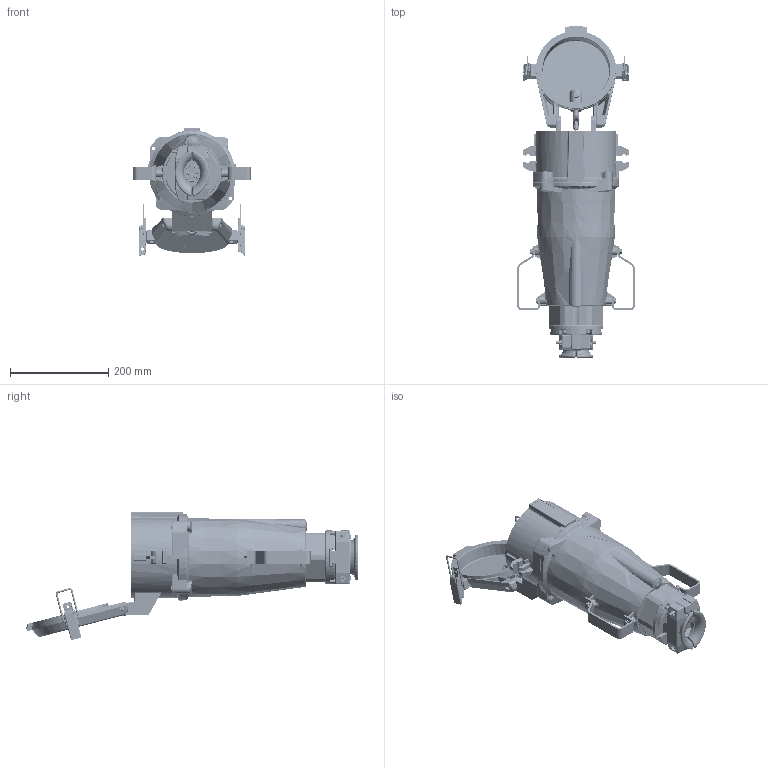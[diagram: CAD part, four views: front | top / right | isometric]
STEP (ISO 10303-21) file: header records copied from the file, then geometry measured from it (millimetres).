
FILE_DESCRIPTION (( 'STEP AP214' ), '1' );
FILE_NAME ('FC-S4-250 B-Line.STEP', '2019-04-25T06:24:08', ( '' ), ( '' ), 'SwSTEP 2.0', 'SolidWorks 2017', '' );
FILE_SCHEMA (( 'AUTOMOTIVE_DESIGN' ));
Length unit declared in the file: millimetre
Products named in the file (209): D_04966; Slotted Cheese Head Screw_DIN-R&S_ISO 1207 - M4 x 8 --- 8N; TL 600 Fuss; D_13704; Socket Set Screw Flat Point_DIN-R&S; TL 600 Rund; Sicherungsscheibe Schnorr; Socket Head Thin Cap Screw_DIN-R&S m.Tuflok; Hex Screw GradeC_DIN-R&S_ISO 4018 - M6 x 12-WN; TL 600 Spannverschluss; D_04741; D_13702; D_30943; D_30236; D_11205; D_13700; D_30694; D_31105; Sicherungsscheibe Rip-Lock; D_10399; Socket Head Cap Screw_DIN-R&S; D_04743; D_10400; D_14885; D_13699; 04973; D_13706; B_13559; D_04970; D_10356; D_30695; Sicherungsscheibe Schnorr_M5; D_11708_NT; Slotted Cheese Head Screw_DIN-R&S; D_31590; Socket Head Cap Screw_DIN-R&S1_DIN 912 M6 x 60 --- 24N; Spring Pin Slotted_HD_DIN-R&S; Spring Pin Slotted_HD_DIN-R&S_Spring Pin ISO 8752 - 4 x 24 - St; D_31103; D_30655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
Assembly tree (149 placements, depth 5):
  D_04966
  TL 600 Fuss
  D_13704
  Socket Set Screw Flat Point_DIN-R&S
  Sicherungsscheibe Schnorr
Bounding box: 238 x 674.86 x 259.74 mm (x, y, z)
Volume: 3385411.3 mm3; surface area: 1316196.1 mm2
Topology: 144 solids, 144 shells, 7596 faces, 19097 edges, 11675 vertices
Faces by surface type: plane 2578, cylinder 2313, torus 1283, cone 799, bspline 426, sphere 197
Entity records: 182165 total; most frequent: CARTESIAN_POINT 65901, DIRECTION 23192, ORIENTED_EDGE 23036, EDGE_CURVE 11518, AXIS2_PLACEMENT_3D 9254, VERTEX_POINT 7139, EDGE_LOOP 5091, CIRCLE 4787
